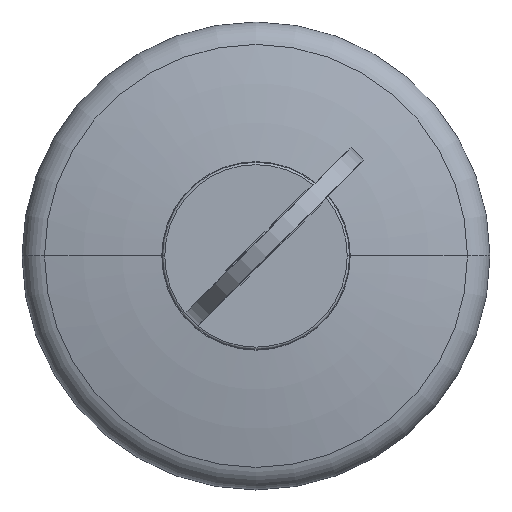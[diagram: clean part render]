
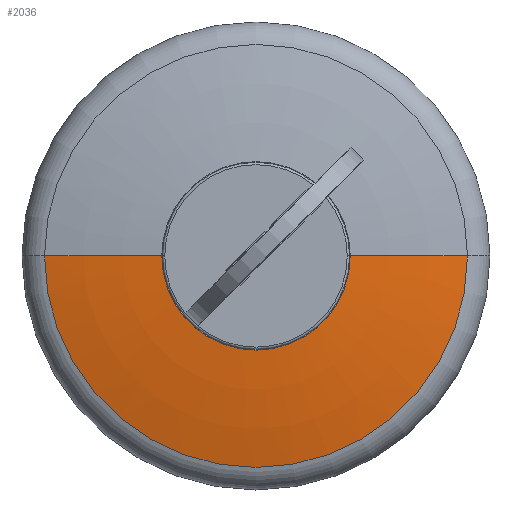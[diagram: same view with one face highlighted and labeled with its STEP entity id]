
A CAD part, top view. The second image highlights one B-rep face of the part: STEP entity #2036.
In plain terms, the highlighted toroidal (fillet/blend) face has major radius 0.782 mm and minor radius 75 mm.
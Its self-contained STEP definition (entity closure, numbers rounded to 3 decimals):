
#178 = CARTESIAN_POINT ( 'NONE',  ( 0., 0., -43.496 ) ) ;
#379 = CARTESIAN_POINT ( 'NONE',  ( -0.782, 0., -43.496 ) ) ;
#451 = EDGE_LOOP ( 'NONE', ( #802, #4888, #3968, #4901 ) ) ;
#481 = CARTESIAN_POINT ( 'NONE',  ( 0.782, 0., -43.496 ) ) ;
#796 = DIRECTION ( 'NONE',  ( 0., 0., -1. ) ) ;
#802 = ORIENTED_EDGE ( 'NONE', *, *, #2225, .F. ) ;
#885 = DIRECTION ( 'NONE',  ( -1., 0., 0. ) ) ;
#1082 = AXIS2_PLACEMENT_3D ( 'NONE', #2276, #5085, #2663 ) ;
#1386 = AXIS2_PLACEMENT_3D ( 'NONE', #379, #3195, #796 ) ;
#1407 = CIRCLE ( 'NONE', #3661, 75. ) ;
#1414 = DIRECTION ( 'NONE',  ( 0., 0., -1. ) ) ;
#1417 = EDGE_CURVE ( 'NONE', #2680, #3611, #2639, .T. ) ;
#1514 = VERTEX_POINT ( 'NONE', #4336 ) ;
#1602 = DIRECTION ( 'NONE',  ( 0., 0., 1. ) ) ;
#2036 = ADVANCED_FACE ( 'NONE', ( #2799 ), #2307, .T. ) ;
#2089 = EDGE_CURVE ( 'NONE', #1514, #5128, #2593, .T. ) ;
#2225 = EDGE_CURVE ( 'NONE', #5128, #3611, #1407, .T. ) ;
#2276 = CARTESIAN_POINT ( 'NONE',  ( 0., 0., 31.151 ) ) ;
#2282 = CARTESIAN_POINT ( 'NONE',  ( 8.05, 0., 31.151 ) ) ;
#2307 = TOROIDAL_SURFACE ( 'NONE', #3592, 0.782, 75. ) ;
#2384 = AXIS2_PLACEMENT_3D ( 'NONE', #3997, #1602, #4415 ) ;
#2450 = CARTESIAN_POINT ( 'NONE',  ( 18.076, 0., 29.483 ) ) ;
#2593 = CIRCLE ( 'NONE', #1082, 8.05 ) ;
#2639 = CIRCLE ( 'NONE', #2384, 18.076 ) ;
#2663 = DIRECTION ( 'NONE',  ( -1., 0., 0. ) ) ;
#2680 = VERTEX_POINT ( 'NONE', #3140 ) ;
#2784 = EDGE_CURVE ( 'NONE', #1514, #2680, #3270, .T. ) ;
#2799 = FACE_OUTER_BOUND ( 'NONE', #451, .T. ) ;
#3140 = CARTESIAN_POINT ( 'NONE',  ( -18.076, 0., 29.483 ) ) ;
#3195 = DIRECTION ( 'NONE',  ( 0., -1., 0. ) ) ;
#3270 = CIRCLE ( 'NONE', #1386, 75. ) ;
#3297 = DIRECTION ( 'NONE',  ( 0., 1., 0. ) ) ;
#3592 = AXIS2_PLACEMENT_3D ( 'NONE', #178, #1414, #4224 ) ;
#3611 = VERTEX_POINT ( 'NONE', #2450 ) ;
#3661 = AXIS2_PLACEMENT_3D ( 'NONE', #481, #3297, #885 ) ;
#3968 = ORIENTED_EDGE ( 'NONE', *, *, #2784, .T. ) ;
#3997 = CARTESIAN_POINT ( 'NONE',  ( 0., 0., 29.483 ) ) ;
#4224 = DIRECTION ( 'NONE',  ( -1., 0., 0. ) ) ;
#4336 = CARTESIAN_POINT ( 'NONE',  ( -8.05, 0., 31.151 ) ) ;
#4415 = DIRECTION ( 'NONE',  ( -1., 0., 0. ) ) ;
#4888 = ORIENTED_EDGE ( 'NONE', *, *, #2089, .F. ) ;
#4901 = ORIENTED_EDGE ( 'NONE', *, *, #1417, .T. ) ;
#5085 = DIRECTION ( 'NONE',  ( 0., 0., 1. ) ) ;
#5128 = VERTEX_POINT ( 'NONE', #2282 ) ;
